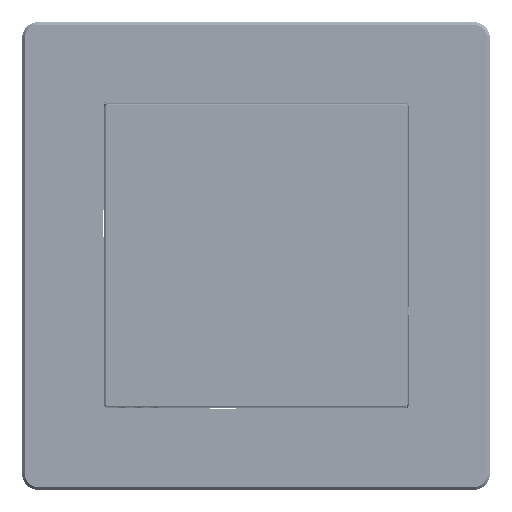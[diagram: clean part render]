
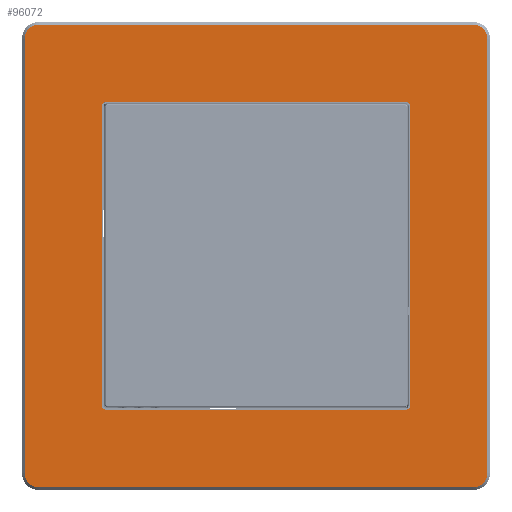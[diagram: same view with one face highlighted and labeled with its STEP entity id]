
A CAD part, top view. The second image highlights one B-rep face of the part: STEP entity #96072.
In plain terms, the highlighted planar face has unit normal (0, 0, 1) as drawn and (0, 1, 0) by its records, which use the part's own axes.
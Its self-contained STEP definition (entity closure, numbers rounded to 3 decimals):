
#7810=CIRCLE('',#104130,2.5);
#7812=CIRCLE('',#104134,2.5);
#7813=CIRCLE('',#104137,2.5);
#7814=CIRCLE('',#104140,2.5);
#7815=CIRCLE('',#104145,0.5);
#7816=CIRCLE('',#104146,0.5);
#7817=CIRCLE('',#104147,0.5);
#7818=CIRCLE('',#104148,0.5);
#11311=FACE_BOUND('',#22610,.T.);
#15357=FACE_OUTER_BOUND('',#22609,.T.);
#22609=EDGE_LOOP('',(#81812,#81813,#81814,#81815,#81816,#81817,#81818,#81819));
#22610=EDGE_LOOP('',(#81820,#81821,#81822,#81823,#81824,#81825,#81826,#81827));
#29990=LINE('',#163906,#37831);
#29994=LINE('',#163918,#37835);
#29998=LINE('',#163929,#37839);
#30002=LINE('',#163938,#37843);
#30006=LINE('',#163950,#37847);
#30007=LINE('',#163954,#37848);
#30008=LINE('',#163958,#37849);
#30009=LINE('',#163962,#37850);
#37831=VECTOR('',#124720,79.);
#37835=VECTOR('',#124732,79.);
#37839=VECTOR('',#124744,79.);
#37843=VECTOR('',#124754,79.);
#37847=VECTOR('',#124770,54.8);
#37848=VECTOR('',#124773,54.8);
#37849=VECTOR('',#124776,54.8);
#37850=VECTOR('',#124779,54.8);
#47076=VERTEX_POINT('',#163903);
#47077=VERTEX_POINT('',#163905);
#47079=VERTEX_POINT('',#163911);
#47081=VERTEX_POINT('',#163916);
#47083=VERTEX_POINT('',#163923);
#47084=VERTEX_POINT('',#163927);
#47085=VERTEX_POINT('',#163932);
#47086=VERTEX_POINT('',#163936);
#47087=VERTEX_POINT('',#163948);
#47088=VERTEX_POINT('',#163949);
#47089=VERTEX_POINT('',#163951);
#47090=VERTEX_POINT('',#163953);
#47091=VERTEX_POINT('',#163955);
#47092=VERTEX_POINT('',#163957);
#47093=VERTEX_POINT('',#163959);
#47094=VERTEX_POINT('',#163961);
#59009=EDGE_CURVE('',#47076,#47077,#29990,.T.);
#59013=EDGE_CURVE('',#47079,#47076,#7810,.T.);
#59015=EDGE_CURVE('',#47081,#47079,#29994,.T.);
#59019=EDGE_CURVE('',#47083,#47081,#7812,.T.);
#59021=EDGE_CURVE('',#47084,#47083,#29998,.T.);
#59024=EDGE_CURVE('',#47085,#47084,#7813,.T.);
#59026=EDGE_CURVE('',#47086,#47085,#30002,.T.);
#59027=EDGE_CURVE('',#47077,#47086,#7814,.T.);
#59031=EDGE_CURVE('',#47087,#47088,#30006,.T.);
#59032=EDGE_CURVE('',#47089,#47088,#7815,.T.);
#59033=EDGE_CURVE('',#47089,#47090,#30007,.T.);
#59034=EDGE_CURVE('',#47091,#47090,#7816,.T.);
#59035=EDGE_CURVE('',#47091,#47092,#30008,.T.);
#59036=EDGE_CURVE('',#47093,#47092,#7817,.T.);
#59037=EDGE_CURVE('',#47093,#47094,#30009,.T.);
#59038=EDGE_CURVE('',#47087,#47094,#7818,.T.);
#81812=ORIENTED_EDGE('',*,*,#59009,.F.);
#81813=ORIENTED_EDGE('',*,*,#59013,.F.);
#81814=ORIENTED_EDGE('',*,*,#59015,.F.);
#81815=ORIENTED_EDGE('',*,*,#59019,.F.);
#81816=ORIENTED_EDGE('',*,*,#59021,.F.);
#81817=ORIENTED_EDGE('',*,*,#59024,.F.);
#81818=ORIENTED_EDGE('',*,*,#59026,.F.);
#81819=ORIENTED_EDGE('',*,*,#59027,.F.);
#81820=ORIENTED_EDGE('',*,*,#59031,.T.);
#81821=ORIENTED_EDGE('',*,*,#59032,.F.);
#81822=ORIENTED_EDGE('',*,*,#59033,.T.);
#81823=ORIENTED_EDGE('',*,*,#59034,.F.);
#81824=ORIENTED_EDGE('',*,*,#59035,.T.);
#81825=ORIENTED_EDGE('',*,*,#59036,.F.);
#81826=ORIENTED_EDGE('',*,*,#59037,.T.);
#81827=ORIENTED_EDGE('',*,*,#59038,.F.);
#91429=PLANE('',#104144);
#96072=ADVANCED_FACE('',(#15357,#11311),#91429,.T.);
#104130=AXIS2_PLACEMENT_3D('',#163913,#124727,#124728);
#104134=AXIS2_PLACEMENT_3D('',#163925,#124739,#124740);
#104137=AXIS2_PLACEMENT_3D('',#163934,#124749,#124750);
#104140=AXIS2_PLACEMENT_3D('',#163940,#124757,#124758);
#104144=AXIS2_PLACEMENT_3D('',#163947,#124768,#124769);
#104145=AXIS2_PLACEMENT_3D('',#163952,#124771,#124772);
#104146=AXIS2_PLACEMENT_3D('',#163956,#124774,#124775);
#104147=AXIS2_PLACEMENT_3D('',#163960,#124777,#124778);
#104148=AXIS2_PLACEMENT_3D('',#163963,#124780,#124781);
#124720=DIRECTION('',(1.,0.,0.));
#124727=DIRECTION('center_axis',(0.,-1.,0.));
#124728=DIRECTION('ref_axis',(-0.707,0.,-0.707));
#124732=DIRECTION('',(0.,0.,-1.));
#124739=DIRECTION('center_axis',(0.,-1.,0.));
#124740=DIRECTION('ref_axis',(-0.707,0.,0.707));
#124744=DIRECTION('',(-1.,0.,0.));
#124749=DIRECTION('center_axis',(0.,-1.,0.));
#124750=DIRECTION('ref_axis',(0.707,0.,0.707));
#124754=DIRECTION('',(0.,0.,1.));
#124757=DIRECTION('center_axis',(0.,-1.,0.));
#124758=DIRECTION('ref_axis',(0.707,0.,-0.707));
#124768=DIRECTION('center_axis',(0.,1.,0.));
#124769=DIRECTION('ref_axis',(0.,0.,1.));
#124770=DIRECTION('',(0.,0.,-1.));
#124771=DIRECTION('center_axis',(0.,1.,0.));
#124772=DIRECTION('ref_axis',(-0.707,0.,-0.707));
#124773=DIRECTION('',(1.,0.,0.));
#124774=DIRECTION('center_axis',(0.,1.,0.));
#124775=DIRECTION('ref_axis',(0.707,0.,-0.707));
#124776=DIRECTION('',(0.,0.,1.));
#124777=DIRECTION('center_axis',(0.,1.,0.));
#124778=DIRECTION('ref_axis',(0.707,0.,0.707));
#124779=DIRECTION('',(-1.,0.,0.));
#124780=DIRECTION('center_axis',(0.,1.,0.));
#124781=DIRECTION('ref_axis',(-0.707,0.,0.707));
#163903=CARTESIAN_POINT('',(-49.5,8.5,-77.4));
#163905=CARTESIAN_POINT('',(29.5,8.5,-77.4));
#163906=CARTESIAN_POINT('',(-49.5,8.5,-77.4));
#163911=CARTESIAN_POINT('',(-52.,8.5,-74.9));
#163913=CARTESIAN_POINT('Origin',(-49.5,8.5,-74.9));
#163916=CARTESIAN_POINT('',(-52.,8.5,4.1));
#163918=CARTESIAN_POINT('',(-52.,8.5,4.1));
#163923=CARTESIAN_POINT('',(-49.5,8.5,6.6));
#163925=CARTESIAN_POINT('Origin',(-49.5,8.5,4.1));
#163927=CARTESIAN_POINT('',(29.5,8.5,6.6));
#163929=CARTESIAN_POINT('',(29.5,8.5,6.6));
#163932=CARTESIAN_POINT('',(32.,8.5,4.1));
#163934=CARTESIAN_POINT('Origin',(29.5,8.5,4.1));
#163936=CARTESIAN_POINT('',(32.,8.5,-74.9));
#163938=CARTESIAN_POINT('',(32.,8.5,-74.9));
#163940=CARTESIAN_POINT('Origin',(29.5,8.5,-74.9));
#163947=CARTESIAN_POINT('Origin',(-10.,8.5,-35.4));
#163948=CARTESIAN_POINT('',(-37.9,8.5,-8.));
#163949=CARTESIAN_POINT('',(-37.9,8.5,-62.8));
#163950=CARTESIAN_POINT('',(-37.9,8.5,-8.));
#163951=CARTESIAN_POINT('',(-37.4,8.5,-63.3));
#163952=CARTESIAN_POINT('Origin',(-37.4,8.5,-62.8));
#163953=CARTESIAN_POINT('',(17.4,8.5,-63.3));
#163954=CARTESIAN_POINT('',(-37.4,8.5,-63.3));
#163955=CARTESIAN_POINT('',(17.9,8.5,-62.8));
#163956=CARTESIAN_POINT('Origin',(17.4,8.5,-62.8));
#163957=CARTESIAN_POINT('',(17.9,8.5,-8.));
#163958=CARTESIAN_POINT('',(17.9,8.5,-62.8));
#163959=CARTESIAN_POINT('',(17.4,8.5,-7.5));
#163960=CARTESIAN_POINT('Origin',(17.4,8.5,-8.));
#163961=CARTESIAN_POINT('',(-37.4,8.5,-7.5));
#163962=CARTESIAN_POINT('',(17.4,8.5,-7.5));
#163963=CARTESIAN_POINT('Origin',(-37.4,8.5,-8.));
